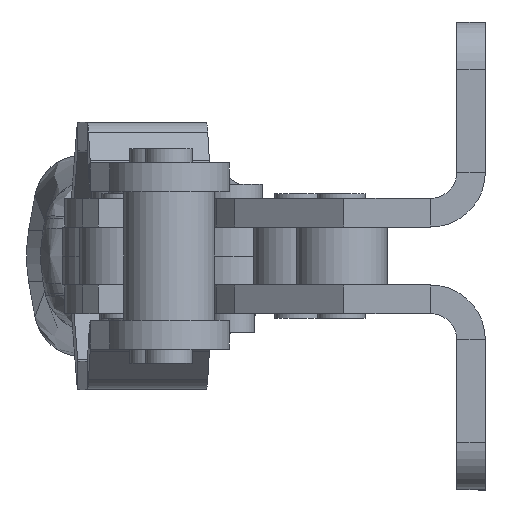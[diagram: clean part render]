
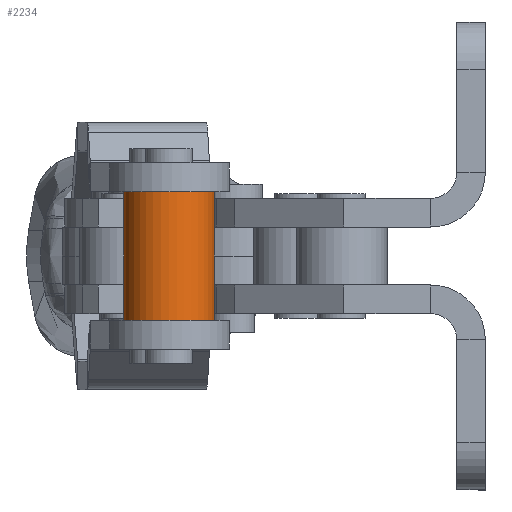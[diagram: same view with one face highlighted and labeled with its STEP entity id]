
A CAD part, left-side view. The second image highlights one B-rep face of the part: STEP entity #2234.
In plain terms, the highlighted cylindrical face has radius 4.763 mm (diameter 9.525 mm), a partial arc.
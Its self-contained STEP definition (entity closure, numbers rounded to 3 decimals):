
#1044 = EDGE_CURVE ( 'NONE', #14610, #15310, #7736, .T. ) ;
#1110 = DIRECTION ( 'NONE',  ( 0., 0., -1. ) ) ;
#1189 = DIRECTION ( 'NONE',  ( 0., 0., -1. ) ) ;
#1513 = CARTESIAN_POINT ( 'NONE',  ( 0., 6.75, 4.762 ) ) ;
#2234 = ADVANCED_FACE ( 'NONE', ( #13350 ), #19377, .T. ) ;
#2811 = CIRCLE ( 'NONE', #20290, 4.762 ) ;
#3539 = CARTESIAN_POINT ( 'NONE',  ( 0., 6.75, -4.762 ) ) ;
#3661 = EDGE_CURVE ( 'NONE', #14610, #13748, #2811, .T. ) ;
#6056 = ORIENTED_EDGE ( 'NONE', *, *, #31457, .F. ) ;
#6653 = DIRECTION ( 'NONE',  ( 0., -1., 0. ) ) ;
#7201 = CARTESIAN_POINT ( 'NONE',  ( 0., 0., 0. ) ) ;
#7736 = LINE ( 'NONE', #16913, #21462 ) ;
#8322 = ORIENTED_EDGE ( 'NONE', *, *, #3661, .T. ) ;
#9686 = VECTOR ( 'NONE', #29335, 1000. ) ;
#9881 = DIRECTION ( 'NONE',  ( 0., -1., 0. ) ) ;
#10280 = ORIENTED_EDGE ( 'NONE', *, *, #17965, .T. ) ;
#11312 = CARTESIAN_POINT ( 'NONE',  ( 0., 0., -4.762 ) ) ;
#11953 = ORIENTED_EDGE ( 'NONE', *, *, #1044, .F. ) ;
#12198 = EDGE_LOOP ( 'NONE', ( #11953, #8322, #10280, #6056 ) ) ;
#13350 = FACE_OUTER_BOUND ( 'NONE', #12198, .T. ) ;
#13748 = VERTEX_POINT ( 'NONE', #3539 ) ;
#14610 = VERTEX_POINT ( 'NONE', #1513 ) ;
#15176 = AXIS2_PLACEMENT_3D ( 'NONE', #31952, #16553, #1110 ) ;
#15310 = VERTEX_POINT ( 'NONE', #21409 ) ;
#15418 = VERTEX_POINT ( 'NONE', #30052 ) ;
#16553 = DIRECTION ( 'NONE',  ( 0., -1., 0. ) ) ;
#16635 = DIRECTION ( 'NONE',  ( 0., -1., 0. ) ) ;
#16913 = CARTESIAN_POINT ( 'NONE',  ( 0., 0., 4.762 ) ) ;
#17965 = EDGE_CURVE ( 'NONE', #13748, #15418, #29446, .T. ) ;
#19377 = CYLINDRICAL_SURFACE ( 'NONE', #27597, 4.762 ) ;
#20254 = CIRCLE ( 'NONE', #15176, 4.762 ) ;
#20290 = AXIS2_PLACEMENT_3D ( 'NONE', #32026, #16635, #1189 ) ;
#21409 = CARTESIAN_POINT ( 'NONE',  ( 0., -6.75, 4.762 ) ) ;
#21462 = VECTOR ( 'NONE', #6653, 1000. ) ;
#25350 = DIRECTION ( 'NONE',  ( 0., 0., -1. ) ) ;
#27597 = AXIS2_PLACEMENT_3D ( 'NONE', #7201, #9881, #25350 ) ;
#29335 = DIRECTION ( 'NONE',  ( 0., -1., 0. ) ) ;
#29446 = LINE ( 'NONE', #11312, #9686 ) ;
#30052 = CARTESIAN_POINT ( 'NONE',  ( 0., -6.75, -4.762 ) ) ;
#31457 = EDGE_CURVE ( 'NONE', #15310, #15418, #20254, .T. ) ;
#31952 = CARTESIAN_POINT ( 'NONE',  ( 0., -6.75, 0. ) ) ;
#32026 = CARTESIAN_POINT ( 'NONE',  ( 0., 6.75, 0. ) ) ;
